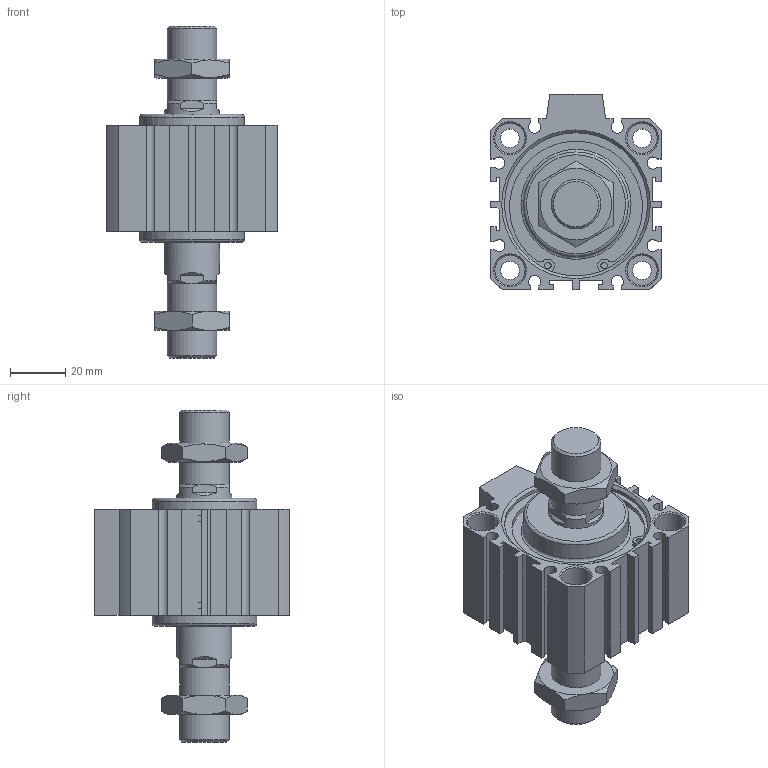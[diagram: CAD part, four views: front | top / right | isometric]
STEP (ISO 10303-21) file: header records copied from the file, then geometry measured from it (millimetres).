
FILE_DESCRIPTION((''),'2;1');
FILE_NAME('I:\3D電子目錄\氣缸\JDD\JDD-B\JDD50-B\JDD50x10-B.stp','2007-02-09T17:06:55',('662F206'),(''),'Autodesk Inventor 10','Autodesk Inventor 10','');
FILE_SCHEMA(('AUTOMOTIVE_DESIGN { 1 0 10303 214 1 1 1 1 }'));
Length unit declared in the file: millimetre
Products named in the file (3): JDD50-B; R 形環 52
Assembly tree (3 placements, depth 2):
  JDD50-B
    JDD50-B
    R 形環 52  x2
Bounding box: 62 x 71 x 120.6 mm (x, y, z)
Volume: 156388.1 mm3; surface area: 40892.4 mm2
Topology: 3 solids, 3 shells, 231 faces, 561 edges, 362 vertices
Faces by surface type: plane 133, cylinder 56, cone 38, bspline 2, torus 2
Full cylindrical faces by diameter (mm): 2.3 x4, 2.7 x2, 6.8 x4, 11 x8, 18 x4, 20 x2, 38 x2, 52 x4, 55 x2
Entity records: 6180 total; most frequent: CARTESIAN_POINT 1222, DIRECTION 1017, ORIENTED_EDGE 942, EDGE_CURVE 471, AXIS2_PLACEMENT_3D 375, VERTEX_POINT 334, EDGE_LOOP 309, VECTOR 267
